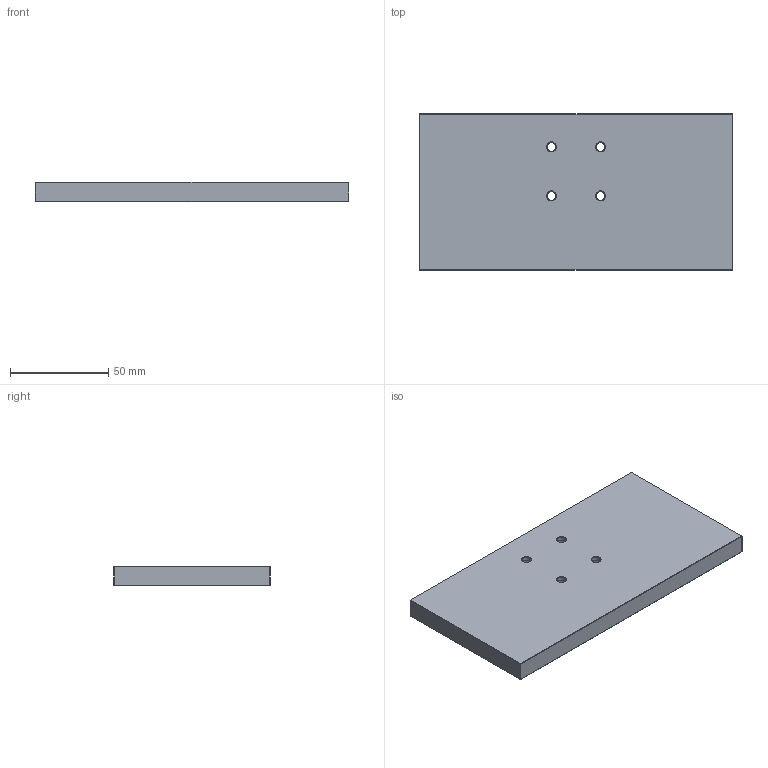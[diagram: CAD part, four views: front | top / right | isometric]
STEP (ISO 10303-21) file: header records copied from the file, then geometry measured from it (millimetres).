
FILE_DESCRIPTION (( 'STEP AP214' ), '1' );
FILE_NAME ('160x80x10mm×ª½Ó°å.STEP', '2026-10-08T06:32:47', ( '' ), ( '' ), 'SwSTEP 2.0', 'SolidWorks 2024', '' );
FILE_SCHEMA (( 'AUTOMOTIVE_DESIGN' ));
Length unit declared in the file: millimetre
Products named in the file (1): 160x80x10mm转接板
Bounding box: 160 x 80 x 10 mm (x, y, z)
Volume: 126212.1 mm3; surface area: 30987.6 mm2
Topology: 1 solids, 1 shells, 54 faces, 128 edges, 80 vertices
Faces by surface type: plane 22, cone 16, cylinder 16
Entity records: 1591 total; most frequent: DIRECTION 286, CARTESIAN_POINT 263, ORIENTED_EDGE 256, EDGE_CURVE 128, AXIS2_PLACEMENT_3D 103, VECTOR 80, VERTEX_POINT 80, LINE 80
